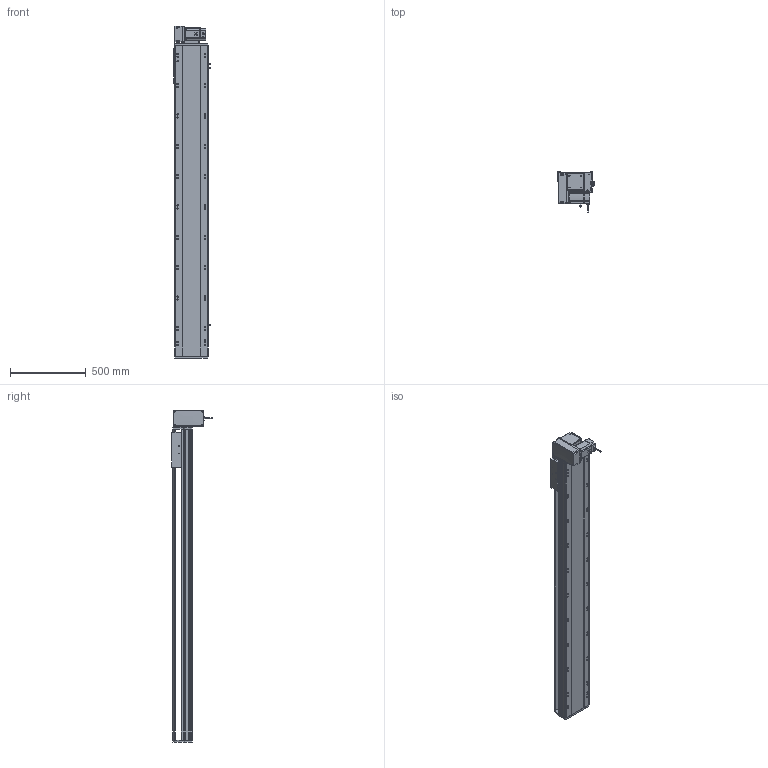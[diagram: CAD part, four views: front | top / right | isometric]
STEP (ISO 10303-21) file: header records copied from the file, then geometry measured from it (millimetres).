
FILE_DESCRIPTION (( 'STEP AP214' ), '1' );
FILE_NAME ('RTB22S-XX-1700-LM-M75-C4.STEP', '2025-12-12T03:53:25', ( '' ), ( '' ), 'SwSTEP 2.0', 'SolidWorks 2018', '' );
FILE_SCHEMA (( 'AUTOMOTIVE_DESIGN' ));
Length unit declared in the file: millimetre
Products named in the file (14): RMP22S-LM-々湍釱蚾饜^RTB22S-XX-XX-LM-M75-C4; RTB22S-GY-008-M75--萇儂啣^RMP22S-LM-々湍釱蚾饜_RTB22S-XX-XX-LM-M75-C4; RTB22S-L-004賑釱^RTB22S-XX-XX-LM-M75-C4; OMRON EE-SX672 传感器^RTB22S-XX-XX-LM-M75-C4; RTH22-GY-013外置感应片^RTB22S-XX-XX-LM-M75-C4; RTB22S-XX-1700-LM-M75-C4; RTB22S-GY-018P^RMP22S-LM-々湍釱蚾饜_RTB22S-XX-XX-LM-M75-C4; 750W萇儂^RTB22S-XX-XX-LM-M75-C4; RTB22S-GY-014--々湍釱^RMP22S-LM-々湍釱蚾饜_RTB22S-XX-XX-LM-M75-C4; RTB22S-GY-017P^RMP22S-LM-々湍釱蚾饜_RTB22S-XX-XX-LM-M75-C4; RTB22S-GY-001耜裔^RTB22S-XX-XX-LM-M75-C4; RTB22S-GY-005P^RMP22S-LM-々湍釱蚾饜_RTB22S-XX-XX-LM-M75-C4; RTB22S-GY-007奻裔^RTB22S-XX-XX-LM-M75-C4; RTB22S-L-011菁釱^RTB22S-XX-XX-LM-M75-C4
Assembly tree (16 placements, depth 3):
  RTB22S-XX-1700-LM-M75-C4
    RTB22S-L-011菁釱^RTB22S-XX-XX-LM-M75-C4
    RTB22S-GY-001耜裔^RTB22S-XX-XX-LM-M75-C4
    750W萇儂^RTB22S-XX-XX-LM-M75-C4
    RTB22S-GY-007奻裔^RTB22S-XX-XX-LM-M75-C4
    RTB22S-L-004賑釱^RTB22S-XX-XX-LM-M75-C4
    RTH22-GY-013外置感应片^RTB22S-XX-XX-LM-M75-C4
    OMRON EE-SX672 传感器^RTB22S-XX-XX-LM-M75-C4  x3
    RMP22S-LM-々湍釱蚾饜^RTB22S-XX-XX-LM-M75-C4
      RTB22S-GY-014--々湍釱^RMP22S-LM-々湍釱蚾饜_RTB22S-XX-XX-LM-M75-C4
      RTB22S-GY-017P^RMP22S-LM-々湍釱蚾饜_RTB22S-XX-XX-LM-M75-C4  x2
      RTB22S-GY-005P^RMP22S-LM-々湍釱蚾饜_RTB22S-XX-XX-LM-M75-C4
      RTB22S-GY-008-M75--萇儂啣^RMP22S-LM-々湍釱蚾饜_RTB22S-XX-XX-LM-M75-C4
      RTB22S-GY-018P^RMP22S-LM-々湍釱蚾饜_RTB22S-XX-XX-LM-M75-C4
Bounding box: 238.5 x 264.7 x 2187.5 mm (x, y, z)
Volume: 29442810.7 mm3; surface area: 3032242.7 mm2
Topology: 15 solids, 15 shells, 2037 faces, 5536 edges, 3542 vertices
Faces by surface type: plane 921, cylinder 658, bspline 296, cone 150, sphere 8, torus 4
Entity records: 54742 total; most frequent: CARTESIAN_POINT 15616, ORIENTED_EDGE 7836, DIRECTION 7592, EDGE_CURVE 3918, AXIS2_PLACEMENT_3D 2698, VERTEX_POINT 2546, LINE 2196, VECTOR 2196
